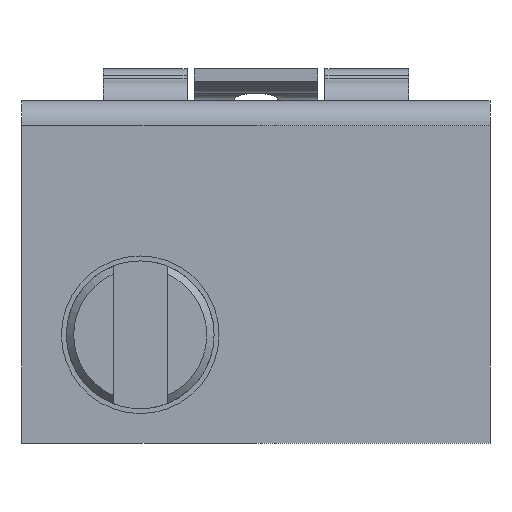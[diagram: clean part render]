
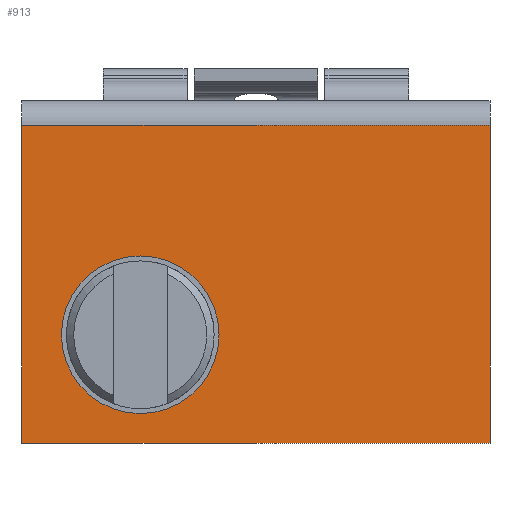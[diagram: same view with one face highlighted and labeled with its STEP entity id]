
A CAD part, front view. The second image highlights one B-rep face of the part: STEP entity #913.
In plain terms, the highlighted planar face has unit normal (0, -1, 0).
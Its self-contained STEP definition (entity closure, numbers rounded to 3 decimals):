
#54 = FACE_OUTER_BOUND ( 'NONE', #1853, .T. ) ;
#130 = CARTESIAN_POINT ( 'NONE',  ( 2.108, -2.286, -3.531 ) ) ;
#186 = CARTESIAN_POINT ( 'NONE',  ( -0.305, -2.286, -0.254 ) ) ;
#349 = VERTEX_POINT ( 'NONE', #1877 ) ;
#402 = ORIENTED_EDGE ( 'NONE', *, *, #1736, .F. ) ;
#449 = VERTEX_POINT ( 'NONE', #2280 ) ;
#475 = EDGE_CURVE ( 'NONE', #349, #868, #593, .T. ) ;
#487 = DIRECTION ( 'NONE',  ( 0., 0., 1. ) ) ;
#564 = CARTESIAN_POINT ( 'NONE',  ( -2.718, -2.286, -0.254 ) ) ;
#568 = DIRECTION ( 'NONE',  ( 0., -1., 0. ) ) ;
#593 = LINE ( 'NONE', #617, #1460 ) ;
#617 = CARTESIAN_POINT ( 'NONE',  ( -2.718, -2.286, -1.892 ) ) ;
#667 = VERTEX_POINT ( 'NONE', #1680 ) ;
#746 = ORIENTED_EDGE ( 'NONE', *, *, #475, .F. ) ;
#868 = VERTEX_POINT ( 'NONE', #564 ) ;
#883 = LINE ( 'NONE', #1655, #1769 ) ;
#894 = DIRECTION ( 'NONE',  ( 0., 0., -1. ) ) ;
#913 = ADVANCED_FACE ( 'NONE', ( #1405, #54 ), #1386, .F. ) ;
#925 = LINE ( 'NONE', #186, #1077 ) ;
#993 = AXIS2_PLACEMENT_3D ( 'NONE', #2407, #568, #1127 ) ;
#998 = VECTOR ( 'NONE', #1463, 1000. ) ;
#1013 = ORIENTED_EDGE ( 'NONE', *, *, #2180, .F. ) ;
#1065 = EDGE_CURVE ( 'NONE', #1306, #2074, #883, .T. ) ;
#1077 = VECTOR ( 'NONE', #2073, 1000. ) ;
#1127 = DIRECTION ( 'NONE',  ( 0., 0., 1. ) ) ;
#1306 = VERTEX_POINT ( 'NONE', #1705 ) ;
#1317 = EDGE_LOOP ( 'NONE', ( #1013, #402 ) ) ;
#1386 = PLANE ( 'NONE',  #2077 ) ;
#1405 = FACE_BOUND ( 'NONE', #1317, .T. ) ;
#1431 = DIRECTION ( 'NONE',  ( 0., 0., 1. ) ) ;
#1460 = VECTOR ( 'NONE', #1927, 1000. ) ;
#1463 = DIRECTION ( 'NONE',  ( 1., 0., 0. ) ) ;
#1472 = CIRCLE ( 'NONE', #2290, 0.813 ) ;
#1551 = CIRCLE ( 'NONE', #993, 0.813 ) ;
#1583 = CARTESIAN_POINT ( 'NONE',  ( -0.305, -2.286, -1.892 ) ) ;
#1604 = ORIENTED_EDGE ( 'NONE', *, *, #1065, .F. ) ;
#1606 = CARTESIAN_POINT ( 'NONE',  ( -1.499, -2.286, -2.413 ) ) ;
#1655 = CARTESIAN_POINT ( 'NONE',  ( 2.108, -2.286, -1.892 ) ) ;
#1680 = CARTESIAN_POINT ( 'NONE',  ( -1.499, -2.286, -1.6 ) ) ;
#1705 = CARTESIAN_POINT ( 'NONE',  ( 2.108, -2.286, -0.254 ) ) ;
#1736 = EDGE_CURVE ( 'NONE', #449, #667, #1472, .T. ) ;
#1769 = VECTOR ( 'NONE', #894, 1000. ) ;
#1853 = EDGE_LOOP ( 'NONE', ( #2142, #1604, #2044, #746 ) ) ;
#1877 = CARTESIAN_POINT ( 'NONE',  ( -2.718, -2.286, -3.531 ) ) ;
#1881 = EDGE_CURVE ( 'NONE', #868, #1306, #925, .T. ) ;
#1927 = DIRECTION ( 'NONE',  ( 0., 0., 1. ) ) ;
#2044 = ORIENTED_EDGE ( 'NONE', *, *, #1881, .F. ) ;
#2073 = DIRECTION ( 'NONE',  ( 1., 0., 0. ) ) ;
#2074 = VERTEX_POINT ( 'NONE', #130 ) ;
#2077 = AXIS2_PLACEMENT_3D ( 'NONE', #1583, #2366, #1431 ) ;
#2110 = EDGE_CURVE ( 'NONE', #349, #2074, #2433, .T. ) ;
#2142 = ORIENTED_EDGE ( 'NONE', *, *, #2110, .T. ) ;
#2180 = EDGE_CURVE ( 'NONE', #667, #449, #1551, .T. ) ;
#2280 = CARTESIAN_POINT ( 'NONE',  ( -1.499, -2.286, -3.226 ) ) ;
#2290 = AXIS2_PLACEMENT_3D ( 'NONE', #1606, #2348, #487 ) ;
#2348 = DIRECTION ( 'NONE',  ( 0., -1., 0. ) ) ;
#2366 = DIRECTION ( 'NONE',  ( 0., 1., 0. ) ) ;
#2407 = CARTESIAN_POINT ( 'NONE',  ( -1.499, -2.286, -2.413 ) ) ;
#2433 = LINE ( 'NONE', #2447, #998 ) ;
#2447 = CARTESIAN_POINT ( 'NONE',  ( -0.305, -2.286, -3.531 ) ) ;
